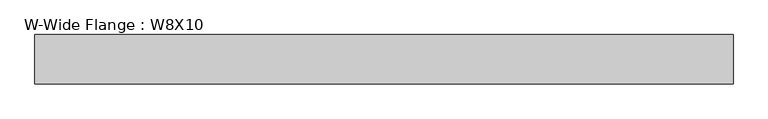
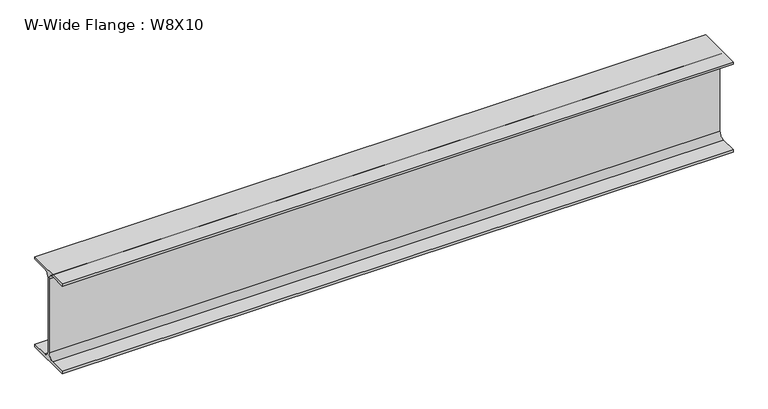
"""IFC4 building model written with IfcOpenShell, lengths in millimetres: beam geometry, W-Wide Flange : W8X10."""

from ifc_helpers import new_model, si_unit, point, frame, frame_2d, origin, place, context, project, spatial, polyline, circle_curve, trimmed, segment, composite_curve, outline, extrude, source, transform, mapped, element, save


def w_wide_flange_w8x10_f6404ef0(model_context):
    return source(origin(), model_context, "Body", "SweptSolid", [
        extrude(outline(composite_curve([segment(polyline([(50.038, -94.996), (50.038, -100.203), (-50.038, -100.203), (-50.038, -94.996), (-14.4145, -94.996)]), True, "CONTINUOUS"), segment(trimmed(circle_curve(frame_2d((-14.4145, -82.7405)), 12.2555), [point((-14.4145, -94.996))], [point((-2.159, -82.7405))], True, "CARTESIAN"), True, "CONTINUOUS"), segment(polyline([(-2.159, -82.7405), (-2.159, 82.7405)]), True, "CONTINUOUS"), segment(trimmed(circle_curve(frame_2d((-14.4145, 82.7405)), 12.2555), [point((-2.159, 82.7405))], [point((-14.4145, 94.996))], True, "CARTESIAN"), True, "CONTINUOUS"), segment(polyline([(-14.4145, 94.996), (-50.038, 94.996), (-50.038, 100.203), (50.038, 100.203), (50.038, 94.996), (14.4145, 94.996)]), True, "CONTINUOUS"), segment(trimmed(circle_curve(frame_2d((14.4145, 82.7405)), 12.2555), [point((14.4145, 94.996))], [point((2.159, 82.7405))], True, "CARTESIAN"), True, "CONTINUOUS"), segment(polyline([(2.159, 82.7405), (2.159, -82.7405)]), True, "CONTINUOUS"), segment(trimmed(circle_curve(frame_2d((14.4145, -82.7405)), 12.2555), [point((2.159, -82.7405))], [point((14.4145, -94.996))], True, "CARTESIAN"), True, "CONTINUOUS"), segment(polyline([(14.4145, -94.996), (50.038, -94.996)]), True, "CONTINUOUS")], self_intersect=False)), frame((-697.1605469, 0.0, 0.0), z_axis=(1.0, 0.0, 0.0), x_axis=(0.0, 1.0, 0.0)), (0.0, 0.0, 1.0), 1413.1230469),
    ])


if __name__ == "__main__":
    model = new_model("IFC4")
    model_context = context("Model", 3, world=origin())
    ifc_project = project(units=[si_unit("LENGTHUNIT", "METRE", prefix="MILLI")], contexts=[model_context])
    site = spatial("IfcSite", under=ifc_project)
    building = spatial("IfcBuilding", under=site)
    placement = place(None, origin())
    w_wide_flange_w8x10_shape = w_wide_flange_w8x10_f6404ef0(model_context)
    element("IfcBeam", 1, ObjectType="W-Wide Flange : W8X10", at=placement, inside=building, context=model_context, shape_type="MappedRepresentation", body=[
        mapped(w_wide_flange_w8x10_shape, transform((0.0, 0.0, 0.0), x_axis=(1.0, 0.0, 0.0), y_axis=(0.0, 1.0, 0.0), z_axis=(0.0, 0.0, 1.0))),
    ])
    save(model, "model.ifc")
